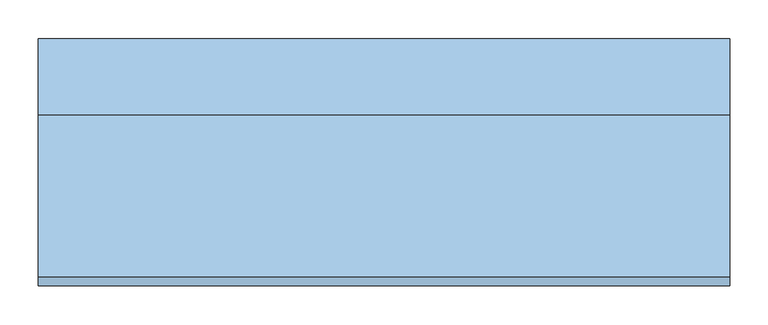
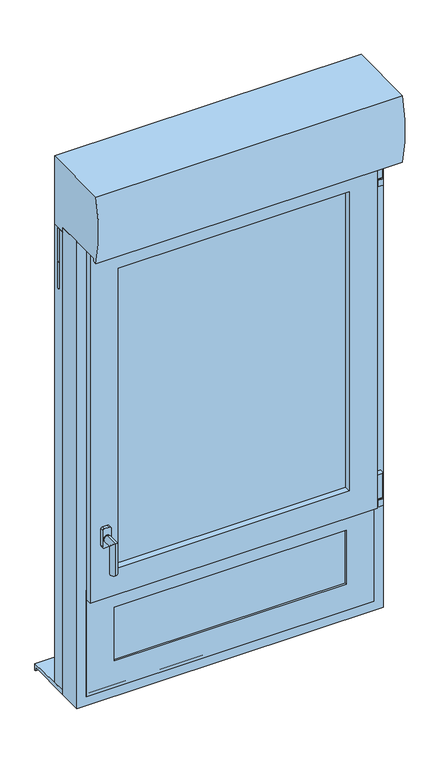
"""IFC4 building model written with IfcOpenShell, lengths in millimetres: window geometry, 6. OF1 + Fixe en B ENR PVC-ALU : OF2 130X165 (LXH) cm."""

from ifc_helpers import new_model, si_unit, point, frame, frame_2d, origin, place, context, project, spatial, polyline, circle_curve, ellipse_curve, trimmed, segment, composite_curve, outline, extrude, faceted_brep, source, transform, mapped, element, save
from ifc_brep_helpers import plane_surface, cylinder_surface, advanced_brep


def window_b5c8aea6(model_context):
    return source(origin(), model_context, "Body", "SolidModel", [
        extrude(outline(composite_curve([segment(polyline([(2201.552, 426.552), (2201.552, 441.552), (2219.5583831, 441.552)]), True, "CONTINUOUS"), segment(trimmed(circle_curve(frame_2d((2219.5583831, 439.5583831)), 1.9936169), [point((2219.5583831, 441.552))], [point((2221.552, 439.5583831))], False, "CARTESIAN"), True, "CONTINUOUS"), segment(polyline([(2221.552, 439.5583831), (2221.552, 428.5196754)]), True, "CONTINUOUS"), segment(trimmed(circle_curve(frame_2d((2219.5843246, 428.5196754)), 1.9676754), [point((2221.552, 428.5196754))], [point((2219.5843246, 426.552))], False, "CARTESIAN"), True, "CONTINUOUS"), segment(polyline([(2219.5843246, 426.552), (2201.552, 426.552)]), True, "CONTINUOUS")], self_intersect=False)), frame((0.0, -115.0338923, 0.0), z_axis=(0.0, 1.0, 0.0), x_axis=(0.0, 0.0, 1.0)), (0.0, 0.0, 1.0), 15.0),
        extrude(outline(composite_curve([segment(trimmed(circle_curve(frame_2d((434.2725562, -107.5434807)), 5.0), [point((429.2725562, -107.5434807))], [point((439.2725562, -107.5434807))], False, "CARTESIAN"), True, "CONTINUOUS"), segment(trimmed(circle_curve(frame_2d((434.2725562, -107.5434807)), 5.0), [point((439.2725562, -107.5434807))], [point((429.2725562, -107.5434807))], False, "CARTESIAN"), True, "CONTINUOUS")], self_intersect=False)), frame((0.0, 0.0, 2141.552), z_axis=(0.0, 0.0, 1.0), x_axis=(1.0, 0.0, 0.0)), (0.0, 0.0, 1.0), 60.0),
        extrude(outline(composite_curve([segment(polyline([(421.552, -100.0434807), (439.5938237, -100.0434807)]), True, "CONTINUOUS"), segment(trimmed(circle_curve(frame_2d((439.5938237, -102.001657)), 1.9581763), [point((439.5938237, -100.0434807))], [point((441.552, -102.001657))], False, "CARTESIAN"), True, "CONTINUOUS"), segment(polyline([(441.552, -102.001657), (441.552, -113.0253033)]), True, "CONTINUOUS"), segment(trimmed(circle_curve(frame_2d((439.5338225, -113.0253033)), 2.0181775), [point((441.552, -113.0253033))], [point((439.5338225, -115.0434807))], False, "CARTESIAN"), True, "CONTINUOUS"), segment(polyline([(439.5338225, -115.0434807), (421.552, -115.0434807), (421.552, -100.0434807)]), True, "CONTINUOUS")], self_intersect=False)), frame((0.0, 0.0, 2147.2784618), z_axis=(0.0, 0.0, 1.0), x_axis=(1.0, 0.0, 0.0)), (0.0, 0.0, 1.0), 50.0),
        extrude(outline(composite_curve([segment(polyline([(2142.2784618, 441.7725562), (2142.2784618, 426.7725562), (2124.2877116, 426.7725562)]), True, "CONTINUOUS"), segment(trimmed(circle_curve(frame_2d((2124.2877116, 428.7818059)), 2.0092498), [point((2124.2877116, 426.7725562))], [point((2122.2784618, 428.7818059))], False, "CARTESIAN"), True, "CONTINUOUS"), segment(polyline([(2122.2784618, 428.7818059), (2122.2784618, 440.1223507)]), True, "CONTINUOUS"), segment(trimmed(circle_curve(frame_2d((2124.2521312, 439.7988867)), 2.0), [point((2122.2784618, 440.1223507))], [point((2123.9286672, 441.7725562))], False, "CARTESIAN"), True, "CONTINUOUS"), segment(polyline([(2123.9286672, 441.7725562), (2142.2784618, 441.7725562)]), True, "CONTINUOUS")], self_intersect=False)), frame((0.0, -115.0338923, 0.0), z_axis=(0.0, 1.0, 0.0), x_axis=(0.0, 0.0, 1.0)), (0.0, 0.0, 1.0), 15.0),
        extrude(outline(composite_curve([segment(trimmed(circle_curve(frame_2d((434.2725562, -107.5434807)), 5.0), [point((429.2725562, -107.5434807))], [point((439.2725562, -107.5434807))], False, "CARTESIAN"), True, "CONTINUOUS"), segment(trimmed(circle_curve(frame_2d((434.2725562, -107.5434807)), 5.0), [point((439.2725562, -107.5434807))], [point((429.2725562, -107.5434807))], False, "CARTESIAN"), True, "CONTINUOUS")], self_intersect=False)), frame((0.0, 0.0, 1148.496), z_axis=(0.0, 0.0, 1.0), x_axis=(1.0, 0.0, 0.0)), (0.0, 0.0, 1.0), 5.0),
        extrude(outline(composite_curve([segment(polyline([(1148.496, 441.7725562), (1148.496, 426.7725562), (1130.5052498, 426.7725562)]), True, "CONTINUOUS"), segment(trimmed(circle_curve(frame_2d((1130.5052498, 428.7818059)), 2.0092498), [point((1130.5052498, 426.7725562))], [point((1128.496, 428.7818059))], False, "CARTESIAN"), True, "CONTINUOUS"), segment(polyline([(1128.496, 428.7818059), (1128.496, 440.1223507)]), True, "CONTINUOUS"), segment(trimmed(circle_curve(frame_2d((1130.4696694, 439.7988867)), 2.0), [point((1128.496, 440.1223507))], [point((1130.1462054, 441.7725562))], False, "CARTESIAN"), True, "CONTINUOUS"), segment(polyline([(1130.1462054, 441.7725562), (1148.496, 441.7725562)]), True, "CONTINUOUS")], self_intersect=False)), frame((0.0, -115.0338923, 0.0), z_axis=(0.0, 1.0, 0.0), x_axis=(0.0, 0.0, 1.0)), (0.0, 0.0, 1.0), 15.0),
        extrude(outline(composite_curve([segment(polyline([(421.552, -100.0434807), (439.5938237, -100.0434807)]), True, "CONTINUOUS"), segment(trimmed(circle_curve(frame_2d((439.5938237, -102.001657)), 1.9581763), [point((439.5938237, -100.0434807))], [point((441.552, -102.001657))], False, "CARTESIAN"), True, "CONTINUOUS"), segment(polyline([(441.552, -102.001657), (441.552, -113.0253033)]), True, "CONTINUOUS"), segment(trimmed(circle_curve(frame_2d((439.5338225, -113.0253033)), 2.0181775), [point((441.552, -113.0253033))], [point((439.5338225, -115.0434807))], False, "CARTESIAN"), True, "CONTINUOUS"), segment(polyline([(439.5338225, -115.0434807), (421.552, -115.0434807), (421.552, -100.0434807)]), True, "CONTINUOUS")], self_intersect=False)), frame((0.0, 0.0, 1153.496), z_axis=(0.0, 0.0, 1.0), x_axis=(1.0, 0.0, 0.0)), (0.0, 0.0, 1.0), 75.0),
        extrude(outline(polyline([(354.5, -90.3260824), (354.5, -94.3260824), (-354.4, -94.3260824), (-354.4, -90.3260824), (354.5, -90.3260824)])), frame((0.0, 0.0, 895.5234875), z_axis=(0.0, 0.0, 1.0), x_axis=(1.0, 0.0, 0.0)), (0.0, 0.0, 1.0), 194.3450251),
        extrude(outline(polyline([(354.5, -66.3260824), (354.5, -70.3260824), (-354.4, -70.3260824), (-354.4, -66.3260824), (354.5, -66.3260824)])), frame((0.0, 0.0, 895.5234875), z_axis=(0.0, 0.0, 1.0), x_axis=(1.0, 0.0, 0.0)), (0.0, 0.0, 1.0), 194.3450251),
        faceted_brep([(-422.6685125, -99.9260824, 1158.0685125), (-422.6685125, -43.5260824, 1158.0685125), (-422.6685125, -43.5260824, 827.3234875), (-422.6685125, -99.9260824, 827.3234875), (422.6765125, -43.5260824, 1158.0685125), (422.6765125, -43.5260824, 827.3234875), (-340.5685125, -43.5260824, 909.4234875), (340.5765125, -43.5260824, 909.4234875), (340.5765125, -43.5260824, 1075.9685125), (-340.5685125, -43.5260824, 1075.9685125), (422.6765125, -99.9260824, 827.3234875), (422.6765125, -99.9260824, 1158.0685125), (-340.5685125, -99.9260824, 1075.9685125), (340.5765125, -99.9260824, 1075.9685125), (340.5765125, -99.9260824, 909.4234875), (-340.5685125, -99.9260824, 909.4234875), (-354.4685125, -90.3260824, 1089.8685125), (-354.4685125, -94.3260824, 1089.8685125), (-354.4685125, -94.3260824, 895.5234875), (-354.4685125, -90.3260824, 895.5234875), (354.4765125, -94.3260824, 1089.8685125), (354.4765125, -94.3260824, 895.5234875), (-340.5685125, -94.3260824, 909.4234875), (340.5765125, -94.3260824, 909.4234875), (340.5765125, -94.3260824, 1075.9685125), (-340.5685125, -94.3260824, 1075.9685125), (354.4765125, -90.3260824, 895.5234875), (354.4765125, -90.3260824, 1089.8685125), (-340.5685125, -90.3260824, 1075.9685125), (340.5765125, -90.3260824, 1075.9685125), (340.5765125, -90.3260824, 909.4234875), (-340.5685125, -90.3260824, 909.4234875), (-340.5685125, -70.3260824, 1075.9685125), (-340.5685125, -70.3260824, 909.4234875), (340.5765125, -70.3260824, 909.4234875), (-354.4685125, -70.3260824, 1089.8685125), (354.4765125, -70.3260824, 1089.8685125), (354.4765125, -70.3260824, 895.5234875), (-354.4685125, -70.3260824, 895.5234875), (340.5765125, -70.3260824, 1075.9685125), (-354.4685125, -66.3260824, 1089.8685125), (-354.4685125, -66.3260824, 895.5234875), (354.4765125, -66.3260824, 895.5234875), (354.4765125, -66.3260824, 1089.8685125), (-340.5685125, -66.3260824, 1075.9685125), (340.5765125, -66.3260824, 1075.9685125), (340.5765125, -66.3260824, 909.4234875), (-340.5685125, -66.3260824, 909.4234875)], [[[0, 1, 2, 3]], [[1, 4, 5, 2], [6, 7, 8, 9]], [[3, 2, 5, 10]], [[3, 10, 11, 0], [12, 13, 14, 15]], [[16, 17, 18, 19]], [[17, 20, 21, 18], [22, 23, 24, 25]], [[19, 18, 21, 26]], [[19, 26, 27, 16], [28, 29, 30, 31]], [[32, 28, 31, 33]], [[33, 31, 30, 34]], [[35, 36, 37, 38], [33, 34, 39, 32]], [[40, 35, 38, 41]], [[41, 38, 37, 42]], [[41, 42, 43, 40], [44, 45, 46, 47]], [[9, 44, 47, 6]], [[6, 47, 46, 7]], [[10, 5, 4, 11]], [[26, 21, 20, 27]], [[34, 30, 29, 39]], [[42, 37, 36, 43]], [[7, 46, 45, 8]], [[22, 15, 14, 23]], [[23, 14, 13, 24]], [[25, 12, 15, 22]], [[11, 4, 1, 0]], [[27, 20, 17, 16]], [[39, 29, 28, 32]], [[43, 36, 35, 40]], [[8, 45, 44, 9]], [[24, 13, 12, 25]]]),
        faceted_brep([(449.992, -28.9, 2250.0), (449.992, -100.02, 2250.0), (449.992, -100.02, 800.0), (449.992, -28.9, 800.0), (-450.008, -100.02, 2250.0), (-450.008, -100.02, 800.0), (413.416, -100.02, 836.576), (-413.432, -100.02, 836.576), (-413.432, -100.02, 2213.424), (413.416, -100.02, 2213.424), (-450.008, -28.9, 800.0), (-450.008, -28.9, 2250.0), (392.0903858, -28.9, 2192.0983858), (-392.1063858, -28.9, 2192.0983858), (-392.1063858, -28.9, 857.9016142), (392.0903858, -28.9, 857.9016142), (413.416, -44.648, 2213.424), (413.416, -44.648, 836.576), (-413.432, -44.648, 2213.424), (-413.432, -44.648, 836.576), (392.0903858, -44.648, 857.9016142), (-392.1063858, -44.648, 857.9016142), (-392.1063858, -44.648, 2192.0983858), (392.0903858, -44.648, 2192.0983858)], [[[0, 1, 2, 3]], [[1, 4, 5, 2], [6, 7, 8, 9]], [[3, 2, 5, 10]], [[3, 10, 11, 0], [12, 13, 14, 15]], [[9, 16, 17, 6]], [[16, 18, 19, 17], [20, 21, 22, 23]], [[6, 17, 19, 7]], [[23, 12, 15, 20]], [[20, 15, 14, 21]], [[10, 5, 4, 11]], [[7, 19, 18, 8]], [[21, 14, 13, 22]], [[11, 4, 1, 0]], [[8, 18, 16, 9]], [[22, 13, 12, 23]]]),
        faceted_brep([(-450.0, -100.02, 2250.0), (-450.0, -28.9, 2250.0), (-450.0, -28.9, 800.0), (-450.0, -100.02, 800.0), (450.0, -28.9, 2250.0), (450.0, -28.9, 800.0), (-392.0983858, -28.9, 857.9016142), (392.0983858, -28.9, 857.9016142), (392.0983858, -28.9, 2192.0983858), (-392.0983858, -28.9, 2192.0983858), (450.0, -100.02, 800.0), (450.0, -100.02, 2250.0), (-413.424, -100.02, 2213.424), (413.424, -100.02, 2213.424), (413.424, -100.02, 836.576), (-413.424, -100.02, 836.576), (-413.424, -44.648, 2213.424), (-413.424, -44.648, 836.576), (413.424, -44.648, 836.576), (413.424, -44.648, 2213.424), (-392.0983858, -44.648, 2192.0983858), (392.0983858, -44.648, 2192.0983858), (392.0983858, -44.648, 857.9016142), (-392.0983858, -44.648, 857.9016142)], [[[0, 1, 2, 3]], [[1, 4, 5, 2], [6, 7, 8, 9]], [[3, 2, 5, 10]], [[3, 10, 11, 0], [12, 13, 14, 15]], [[16, 12, 15, 17]], [[17, 15, 14, 18]], [[17, 18, 19, 16], [20, 21, 22, 23]], [[9, 20, 23, 6]], [[6, 23, 22, 7]], [[10, 5, 4, 11]], [[18, 14, 13, 19]], [[7, 22, 21, 8]], [[11, 4, 1, 0]], [[19, 13, 12, 16]], [[8, 21, 20, 9]]]),
        extrude(outline(polyline([(353.4, -96.019954), (353.4, -100.019954), (-353.4, -100.019954), (-353.4, -96.019954), (353.4, -96.019954)])), frame((0.0, 0.0, 1196.6304883), z_axis=(0.0, 0.0, 1.0), x_axis=(1.0, 0.0, 0.0)), (0.0, 0.0, 1.0), 956.7870233),
        extrude(outline(polyline([(353.4, -68.9786213), (353.4, -72.9786213), (-353.4, -72.9786213), (-353.4, -68.9786213), (353.4, -68.9786213)])), frame((0.0, 0.0, 1196.6304883), z_axis=(0.0, 0.0, 1.0), x_axis=(1.0, 0.0, 0.0)), (0.0, 0.0, 1.0), 956.7870233),
        extrude(outline(polyline([(353.4, -41.9786213), (353.4, -45.9786213), (-353.4, -45.9786213), (-353.4, -41.9786213), (353.4, -41.9786213)])), frame((0.0, 0.0, 1196.6304883), z_axis=(0.0, 0.0, 1.0), x_axis=(1.0, 0.0, 0.0)), (0.0, 0.0, 1.0), 956.7870233),
        faceted_brep([(361.6086701, -48.2039543, 2161.6086701), (361.6086701, -100.019954, 2161.6086701), (361.6086701, -100.019954, 1188.4393299), (361.6086701, -48.2039543, 1188.4393299), (386.5514701, -28.7475756, 2186.5514701), (386.5514701, -48.2039543, 2186.5514701), (386.5514701, -48.2039543, 1163.4965299), (386.5514701, -28.7475756, 1163.4965299), (335.3393386, -41.9786213, 2135.3393386), (335.3393386, -28.7475756, 2135.3393386), (335.3393386, -28.7475756, 1214.7086614), (335.3393386, -41.9786213, 1214.7086614), (339.5240492, -96.019954, 2139.5240492), (339.5240492, -72.9786213, 2139.5240492), (339.5240492, -72.9786213, 1210.5239508), (339.5240492, -96.019954, 1210.5239508), (353.4175117, -100.019954, 2153.4175117), (353.4175117, -96.019954, 2153.4175117), (353.4175117, -96.019954, 1196.6304883), (353.4175117, -100.019954, 1196.6304883), (353.4175117, -72.9786213, 2153.4175117), (353.4175117, -68.9786213, 2153.4175117), (353.4175117, -68.9786213, 1196.6304883), (353.4175117, -72.9786213, 1196.6304883), (353.4175117, -45.9786213, 2153.4175117), (353.4175117, -41.9786213, 2153.4175117), (353.4175117, -41.9786213, 1196.6304883), (353.4175117, -45.9786213, 1196.6304883), (336.1974041, -68.9786213, 2136.1974041), (336.1974041, -45.9786213, 2136.1974041), (336.1974041, -45.9786213, 1213.8505959), (336.1974041, -68.9786213, 1213.8505959), (-339.5240492, -72.9786213, 1210.5239508), (-339.5240492, -96.019954, 1210.5239508), (-353.4175117, -96.019954, 1196.6304883), (-353.4175117, -100.019954, 1196.6304883), (-361.6086701, -100.019954, 1188.4393299), (-361.6086701, -48.2039543, 1188.4393299), (-386.5514701, -48.2039543, 1163.4965299), (-386.5514701, -28.7475756, 1163.4965299), (-335.3393386, -28.7475756, 1214.7086614), (-335.3393386, -41.9786213, 1214.7086614), (-353.4175117, -41.9786213, 1196.6304883), (-353.4175117, -45.9786213, 1196.6304883), (-336.1974041, -45.9786213, 1213.8505959), (-336.1974041, -68.9786213, 1213.8505959), (-353.4175117, -68.9786213, 1196.6304883), (-353.4175117, -72.9786213, 1196.6304883), (-339.5240492, -72.9786213, 2139.5240492), (-339.5240492, -96.019954, 2139.5240492), (-353.4175117, -96.019954, 2153.4175117), (-353.4175117, -100.019954, 2153.4175117), (-361.6086701, -100.019954, 2161.6086701), (-361.6086701, -48.2039543, 2161.6086701), (-386.5514701, -48.2039543, 2186.5514701), (-386.5514701, -28.7475756, 2186.5514701), (-335.3393386, -28.7475756, 2135.3393386), (-335.3393386, -41.9786213, 2135.3393386), (-353.4175117, -41.9786213, 2153.4175117), (-353.4175117, -45.9786213, 2153.4175117), (-336.1974041, -45.9786213, 2136.1974041), (-336.1974041, -68.9786213, 2136.1974041), (-353.4175117, -68.9786213, 2153.4175117), (-353.4175117, -72.9786213, 2153.4175117)], [[[0, 1, 2, 3]], [[4, 5, 6, 7]], [[8, 9, 10, 11]], [[12, 13, 14, 15]], [[16, 17, 18, 19]], [[20, 21, 22, 23]], [[24, 25, 26, 27]], [[28, 29, 30, 31]], [[15, 14, 32, 33]], [[19, 18, 34, 35]], [[3, 2, 36, 37]], [[7, 6, 38, 39]], [[11, 10, 40, 41]], [[27, 26, 42, 43]], [[31, 30, 44, 45]], [[23, 22, 46, 47]], [[33, 32, 48, 49]], [[35, 34, 50, 51]], [[37, 36, 52, 53]], [[39, 38, 54, 55]], [[41, 40, 56, 57]], [[43, 42, 58, 59]], [[45, 44, 60, 61]], [[47, 46, 62, 63]], [[49, 48, 13, 12]], [[50, 34, 18, 17], [15, 33, 49, 12]], [[51, 50, 17, 16]], [[52, 36, 2, 1], [19, 35, 51, 16]], [[53, 52, 1, 0]], [[54, 38, 6, 5], [3, 37, 53, 0]], [[55, 54, 5, 4]], [[7, 39, 55, 4], [56, 40, 10, 9]], [[57, 56, 9, 8]], [[58, 42, 26, 25], [11, 41, 57, 8]], [[59, 58, 25, 24]], [[27, 43, 59, 24], [60, 44, 30, 29]], [[61, 60, 29, 28]], [[62, 46, 22, 21], [31, 45, 61, 28]], [[63, 62, 21, 20]], [[23, 47, 63, 20], [13, 48, 32, 14]]]),
        faceted_brep([(421.552, -119.3239543, 1128.496), (421.552, -100.0434807, 1128.496), (421.552, -100.0434807, 2221.552), (421.552, -119.3239543, 2221.552), (339.3505043, -100.019954, 1210.6974957), (339.3505043, -119.3239543, 1210.6974957), (339.3505043, -119.3239543, 2139.3505043), (339.3505043, -100.019954, 2139.3505043), (361.6086701, -48.2039543, 1188.4393299), (361.6086701, -100.019954, 1188.4393299), (361.6086701, -100.019954, 2161.6086701), (361.6086701, -48.2039543, 2161.6086701), (392.0983858, -44.648, 1157.9496142), (392.0983858, -48.2039543, 1157.9496142), (392.0983858, -48.2039543, 2192.0983858), (392.0983858, -44.648, 2192.0983858), (401.232, -100.0434807, 1148.816), (401.232, -44.648, 1148.816), (401.232, -44.648, 2201.232), (401.232, -100.0434807, 2201.232), (-421.552, -100.0434807, 2221.552), (-421.552, -119.3239543, 2221.552), (-339.3505043, -119.3239543, 2139.3505043), (-339.3505043, -100.019954, 2139.3505043), (-361.6086701, -100.019954, 2161.6086701), (-361.6086701, -48.2039543, 2161.6086701), (-392.0983858, -48.2039543, 2192.0983858), (-392.0983858, -44.648, 2192.0983858), (-401.232, -44.648, 2201.232), (-401.232, -100.0434807, 2201.232), (-421.552, -100.0434807, 1128.496), (-421.552, -119.3239543, 1128.496), (-339.3505043, -119.3239543, 1210.6974957), (-339.3505043, -100.019954, 1210.6974957), (-361.6086701, -100.019954, 1188.4393299), (-361.6086701, -48.2039543, 1188.4393299), (-392.0983858, -48.2039543, 1157.9496142), (-392.0983858, -44.648, 1157.9496142), (-401.232, -44.648, 1148.816), (-401.232, -100.0434807, 1148.816)], [[[0, 1, 2, 3]], [[4, 5, 6, 7]], [[8, 9, 10, 11]], [[12, 13, 14, 15]], [[16, 17, 18, 19]], [[3, 2, 20, 21]], [[7, 6, 22, 23]], [[11, 10, 24, 25]], [[15, 14, 26, 27]], [[19, 18, 28, 29]], [[21, 20, 30, 31]], [[23, 22, 32, 33]], [[25, 24, 34, 35]], [[27, 26, 36, 37]], [[29, 28, 38, 39]], [[1, 30, 20, 2], [19, 29, 39, 16]], [[31, 30, 1, 0]], [[3, 21, 31, 0], [5, 32, 22, 6]], [[33, 32, 5, 4]], [[9, 34, 24, 10], [7, 23, 33, 4]], [[35, 34, 9, 8]], [[13, 36, 26, 14], [11, 25, 35, 8]], [[37, 36, 13, 12]], [[17, 38, 28, 18], [15, 27, 37, 12]], [[39, 38, 17, 16]]]),
        extrude(outline(composite_curve([segment(polyline([(-186.3991192, 2240.3409737), (-197.3316724, 2240.3409737)]), True, "CONTINUOUS"), segment(trimmed(circle_curve(frame_2d((189.1050523, 2343.6204869)), 400.0), [point((-197.3316724, 2240.3409737))], [point((-197.3316724, 2446.9))], False, "CARTESIAN"), True, "CONTINUOUS"), segment(polyline([(-197.3316724, 2446.9), (13.0999994, 2446.9), (13.0999994, 2236.0216226), (-4.9499979, 2236.0216226), (-4.9499979, 2234.2216225), (-2.7215215, 2234.2216225), (-2.7215215, 2209.9791617), (-4.9499979, 2209.9791617), (-4.9499979, 2208.1791616), (-2.7215215, 2208.1791616), (-2.7215215, 2183.9367008), (-4.9499979, 2183.9367008), (-4.9499979, 2182.1367006), (-2.7215215, 2182.1367006), (-2.7215215, 2157.8942398), (-4.9499979, 2157.8942398), (-4.9499979, 2156.0942397), (-2.7215215, 2156.0942397), (-2.7215215, 2131.8517789), (-4.9499979, 2131.8517789), (-4.9499979, 2130.0517788), (-2.7215215, 2130.0517788), (-2.7215215, 2105.809318), (-4.9499979, 2105.809318), (-4.9499979, 2104.0093179), (-2.7215215, 2104.0093179), (-2.7215215, 2079.7668571), (-4.9499979, 2079.7668571), (-4.9499979, 2077.966857), (-2.7215215, 2077.966857), (-2.7215215, 2053.7243961), (-4.9499979, 2053.7243961), (-4.9499979, 2051.9243963), (-3.044091, 2051.9243963), (-3.044091, 2048.977424), (-6.4, 2045.6232688), (-9.8999992, 2048.9774251), (-9.8999992, 2051.9243963), (-7.7499979, 2051.9243963), (-7.7499979, 2053.7243961), (-9.9999979, 2053.7243961), (-9.9999979, 2077.9668572), (-7.7499979, 2077.9668572), (-7.7499979, 2079.7668571), (-9.9999979, 2079.7668571), (-9.9999979, 2104.0093181), (-7.7499979, 2104.0093181), (-7.7499979, 2105.809318), (-9.9999979, 2105.809318), (-9.9999979, 2130.051779), (-7.7499979, 2130.051779), (-7.7499979, 2131.8517789), (-9.9999979, 2131.8517789), (-9.9999979, 2156.09424), (-7.7499979, 2156.09424), (-7.7499979, 2157.8942398), (-9.9999979, 2157.8942398), (-9.9999979, 2182.1367009), (-7.7499979, 2182.1367009), (-7.7499979, 2183.9367008), (-9.9999979, 2183.9367008), (-9.9999979, 2208.1791618), (-7.7499979, 2208.1791618), (-7.7499979, 2209.9791617), (-9.9999979, 2209.9791617), (-9.9999979, 2234.2216227), (-7.7499979, 2234.2216227), (-7.7499979, 2236.0216226), (-28.9, 2236.0216226), (-28.9, 2250.0), (-186.3991192, 2250.0), (-186.3991192, 2240.3409737)]), True, "CONTINUOUS")], self_intersect=False)), frame((-450.008, 0.0, 0.0), z_axis=(1.0, 0.0, 0.0), x_axis=(0.0, 1.0, 0.0)), (0.0, 0.0, 1.0), 900.008),
        advanced_brep(
        [(-378.3268127, -129.3239543, 1331.3798349), (-378.3268127, -129.3239543, 1311.3798349), (-378.3268127, -133.0531938, 1311.3798349), (-378.3268127, -133.0531938, 1331.3798349), (-378.3268127, -173.0531938, 1331.3798349), (-378.3268127, -153.0531938, 1311.3798349), (-378.3268127, -173.0531938, 1231.3798349), (-378.3268127, -153.0531938, 1231.3798349)],
        [
            (0, 1, circle_curve(frame((-378.3268127, -129.3239543, 1321.3798349), z_axis=(0.0, 1.0, 0.0), x_axis=(0.0, 0.0, -1.0)), 10.0)),
            (1, 0, circle_curve(frame((-378.3268127, -129.3239543, 1321.3798349), z_axis=(0.0, 1.0, 0.0), x_axis=(0.0, 0.0, -1.0)), 10.0)),
            (2, 3, circle_curve(frame((-378.3268127, -133.0531938, 1321.3798349), z_axis=(0.0, -1.0, 0.0), x_axis=(0.0, 0.0, -1.0)), 10.0)),
            (3, 4),
            (4, 5, ellipse_curve(frame((-378.3268127, -163.0531938, 1321.3798349), z_axis=(0.0, 0.7071067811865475, 0.7071067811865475), x_axis=(0.0, 0.7071067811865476, -0.7071067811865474)), 14.1421356, 10.0)),
            (5, 2),
            (3, 2, circle_curve(frame((-378.3268127, -133.0531938, 1321.3798349), z_axis=(0.0, -1.0, 0.0), x_axis=(0.0, 0.0, -1.0)), 10.0)),
            (5, 4, ellipse_curve(frame((-378.3268127, -163.0531938, 1321.3798349), z_axis=(0.0, 0.7071067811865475, 0.7071067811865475), x_axis=(0.0, 0.7071067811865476, -0.7071067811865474)), 14.1421356, 10.0)),
            (6, 7, circle_curve(frame((-378.3268127, -163.0531938, 1231.3798349), z_axis=(0.0, 0.0, -1.0), x_axis=(0.0, 1.0, 0.0)), 10.0)),
            (7, 6, circle_curve(frame((-378.3268127, -163.0531938, 1231.3798349), z_axis=(0.0, 0.0, -1.0), x_axis=(0.0, 1.0, 0.0)), 10.0)),
            (4, 6),
            (7, 5),
            (0, 3),
            (2, 1),
        ],
        [
            plane_surface(frame((-366.104, -129.3239543, 1321.3798349), z_axis=(0.0, 1.0, 0.0), x_axis=(1.0, 0.0, 0.0))),
            cylinder_surface(frame((-378.3268127, -133.0531938, 1321.3798349), z_axis=(0.0, 1.0, 0.0), x_axis=(0.0, 0.0, -1.0)), 10.0),
            plane_surface(frame((-366.104, -163.0531938, 1231.3798349), z_axis=(0.0, 0.0, -1.0), x_axis=(1.0, 0.0, 0.0))),
            cylinder_surface(frame((-378.3268127, -163.0531938, 1321.3798349), z_axis=(0.0, 0.0, 1.0), x_axis=(0.0, 1.0, 0.0)), 10.0),
            cylinder_surface(frame((-378.3268127, -129.3239543, 1321.3798349), z_axis=(0.0, 1.0, 0.0), x_axis=(0.0, 0.0, -1.0)), 10.0),
        ],
        [
            (0, [[1, 2]]),
            (1, [[3, 4, 5, 6]]),
            (1, [[7, -6, 8, -4]]),
            (2, [[9, 10]]),
            (3, [[-5, 11, -10, 12]]),
            (3, [[-8, -12, -9, -11]]),
            (4, [[-1, 13, -3, 14]]),
            (4, [[-2, -14, -7, -13]]),
        ],
    ),
        extrude(outline(composite_curve([segment(polyline([(1353.576, -371.104), (1353.576, -386.104)]), True, "CONTINUOUS"), segment(trimmed(circle_curve(frame_2d((1348.576, -386.104)), 5.0), [point((1353.576, -386.104))], [point((1348.576, -391.104))], False, "CARTESIAN"), True, "CONTINUOUS"), segment(polyline([(1348.576, -391.104), (1298.576, -391.104)]), True, "CONTINUOUS"), segment(trimmed(circle_curve(frame_2d((1298.576, -386.104)), 5.0), [point((1298.576, -391.104))], [point((1293.576, -386.104))], False, "CARTESIAN"), True, "CONTINUOUS"), segment(polyline([(1293.576, -386.104), (1293.576, -371.104)]), True, "CONTINUOUS"), segment(trimmed(circle_curve(frame_2d((1298.576, -371.104)), 5.0), [point((1293.576, -371.104))], [point((1298.576, -366.104))], False, "CARTESIAN"), True, "CONTINUOUS"), segment(polyline([(1298.576, -366.104), (1348.576, -366.104)]), True, "CONTINUOUS"), segment(trimmed(circle_curve(frame_2d((1348.576, -371.104)), 5.0), [point((1348.576, -366.104))], [point((1353.576, -371.104))], False, "CARTESIAN"), True, "CONTINUOUS")], self_intersect=False)), frame((0.0, -129.3239543, 0.0), z_axis=(0.0, 1.0, 0.0), x_axis=(0.0, 0.0, 1.0)), (0.0, 0.0, 1.0), 10.0),
        extrude(outline(polyline([(-28.9, 800.0), (-28.9, 812.9639252), (113.0, 809.77529), (113.0, 790.0), (110.0, 790.0), (110.0, 800.0), (-28.9, 800.0)])), frame((-450.0, 0.0, 0.0), z_axis=(1.0, 0.0, 0.0), x_axis=(0.0, 1.0, 0.0)), (0.0, 0.0, 1.0), 900.0),
        extrude(outline(polyline([(-449.0, -28.9), (-450.0, -28.9), (-450.0, 13.1), (-449.0, 13.1), (-449.0, 2.1), (-429.0, 2.1), (-429.0, -0.9), (-449.0, -0.9), (-449.0, -11.9), (-429.0, -11.9), (-429.0, -14.9), (-449.0, -14.9), (-449.0, -28.9)])), frame((0.0, 0.0, 812.9639252), z_axis=(0.0, 0.0, 1.0), x_axis=(1.0, 0.0, 0.0)), (0.0, 0.0, 1.0), 1423.1),
        extrude(outline(polyline([(448.992, -28.9), (448.992, -14.9), (428.992, -14.9), (428.992, -11.9), (448.992, -11.9), (448.992, -0.9), (428.992, -0.9), (428.992, 2.1), (448.992, 2.1), (448.992, 13.1), (449.992, 13.1), (449.992, -28.9), (448.992, -28.9)])), frame((0.0, 0.0, 812.9639252), z_axis=(0.0, 0.0, 1.0), x_axis=(1.0, 0.0, 0.0)), (0.0, 0.0, 1.0), 1423.1),
    ])


if __name__ == "__main__":
    model = new_model("IFC4")
    model_context = context("Model", 3, world=origin())
    ifc_project = project(units=[si_unit("LENGTHUNIT", "METRE", prefix="MILLI")], contexts=[model_context])
    site = spatial("IfcSite", under=ifc_project)
    building = spatial("IfcBuilding", under=site)
    placement = place(None, origin())
    window_shape = window_b5c8aea6(model_context)
    element("IfcWindow", 1, ObjectType="6. OF1 + Fixe en B ENR PVC-ALU : OF2 130X165 (LXH) cm", at=placement, inside=building, context=model_context, shape_type="MappedRepresentation", body=[
        mapped(window_shape, transform((0.0, 0.0, 0.0), x_axis=(1.0, 0.0, 0.0), y_axis=(0.0, 1.0, 0.0), z_axis=(0.0, 0.0, 1.0))),
    ])
    save(model, "model.ifc")
